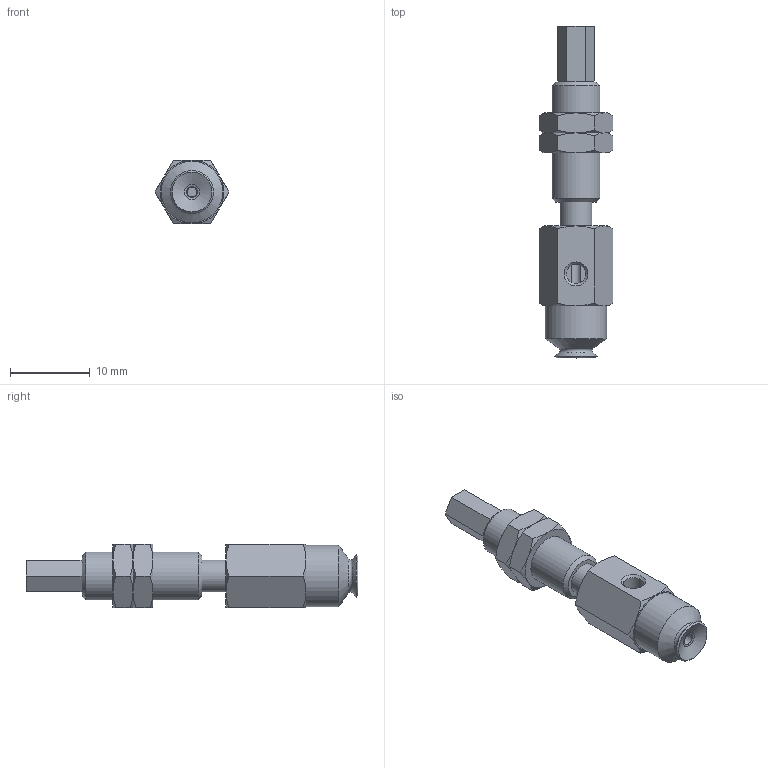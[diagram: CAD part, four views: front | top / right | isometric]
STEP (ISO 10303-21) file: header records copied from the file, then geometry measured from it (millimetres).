
FILE_DESCRIPTION(('STEP AP203'),'1');
FILE_NAME('.stp','2025-04-09T05:24:51',(' '),(' '),'Spatial InterOp 3D',' ',' ');
FILE_SCHEMA(('CONFIG_CONTROL_DESIGN'));
Length unit declared in the file: millimetre
Products named in the file (6): BNABPFYS-5A-3-※; CONNECTOR-5A-3; Nut-5A-3-s; NAPFTS-5A-3-FBODY; NAPFTS-5A-3-MBODY; BPFG-5A-※
Assembly tree (6 placements, depth 2):
  BNABPFYS-5A-3-※
    CONNECTOR-5A-3
    Nut-5A-3-s  x2
    NAPFTS-5A-3-FBODY
    NAPFTS-5A-3-MBODY
    BPFG-5A-※
Bounding box: 9.24 x 41.5 x 8 mm (x, y, z)
Volume: 1449.8 mm3; surface area: 2165.2 mm2
Topology: 6 solids, 6 shells, 131 faces, 279 edges, 166 vertices
Faces by surface type: plane 56, cone 52, cylinder 15, torus 7, bspline 1
Full cylindrical faces by diameter (mm): 1.2 x1, 1.4 x1, 2.459 x2, 3 x1, 4 x4, 5.188 x2, 6 x3, 7.7 x1
Entity records: 3193 total; most frequent: CARTESIAN_POINT 780, DIRECTION 442, ORIENTED_EDGE 378, AXIS2_PLACEMENT_3D 193, EDGE_CURVE 189, EDGE_LOOP 158, VERTEX_POINT 131, FACE_OUTER_BOUND 130
